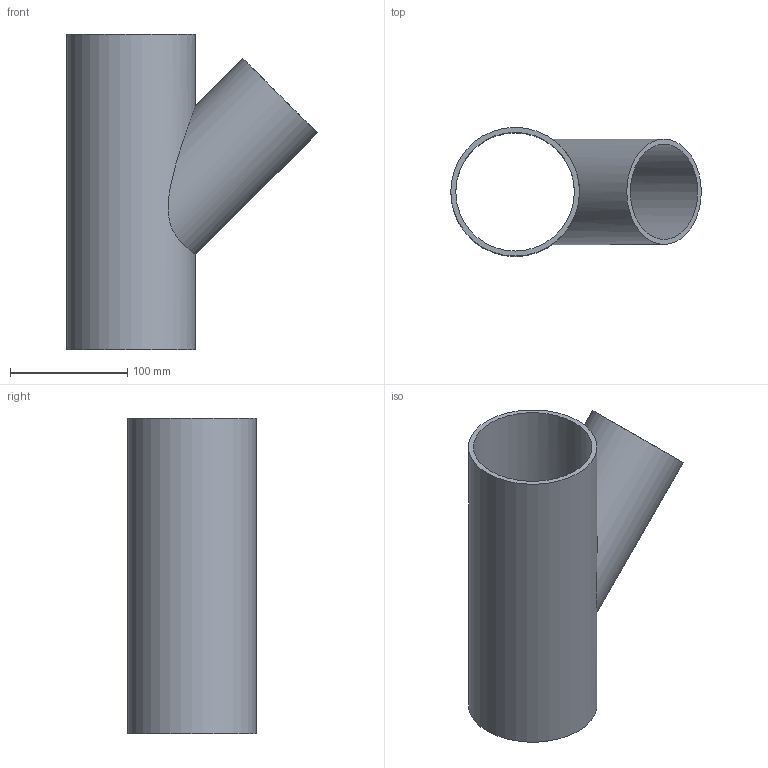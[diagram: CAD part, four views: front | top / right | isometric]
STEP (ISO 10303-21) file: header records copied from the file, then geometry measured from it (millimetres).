
FILE_DESCRIPTION(/* description */ (''),/* implementation_level */ '2;1');
FILE_NAME(/* name */ 'C:\Planerdaten\Export PLA\PRO_101557\stp\367130.stp',/* time_stamp */ '2021-09-30T15:06:50+02:00',/* author */ ('JANAN'),/* organization */ (''),/* preprocessor_version */ 'ST-DEVELOPER v16.13',/* originating_system */ 'Autodesk Inventor 2018',/* authorisation */ '');
FILE_SCHEMA (('AUTOMOTIVE_DESIGN { 1 0 10303 214 3 1 1 }'));
Length unit declared in the file: millimetre
Products named in the file (1): tmpDE6.tmp
Bounding box: 214.1 x 110 x 270 mm (x, y, z)
Volume: 484808.6 mm3; surface area: 229491.8 mm2
Topology: 1 solids, 1 shells, 7 faces, 17 edges, 12 vertices
Faces by surface type: cylinder 4, plane 3
Full cylindrical faces by diameter (mm): 81.4 x1, 90 x1, 101.4 x1, 110 x1
Entity records: 360 total; most frequent: CARTESIAN_POINT 182, DIRECTION 28, EDGE_LOOP 16, ORIENTED_EDGE 16, AXIS2_PLACEMENT_3D 14, FACE_BOUND 9, VERTEX_POINT 8, EDGE_CURVE 8
